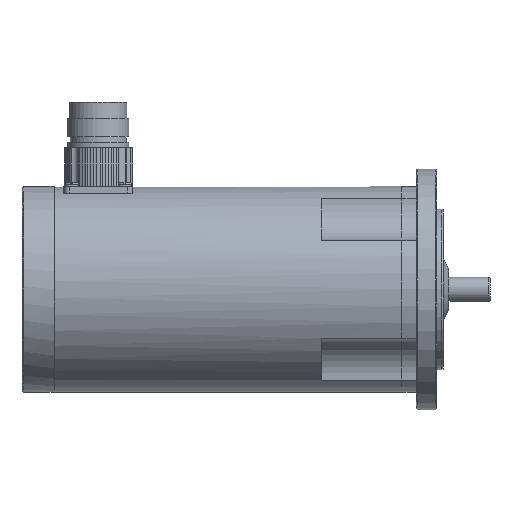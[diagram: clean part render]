
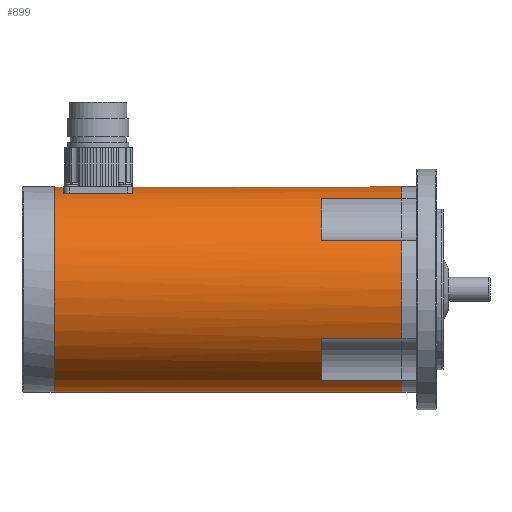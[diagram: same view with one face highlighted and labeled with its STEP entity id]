
A CAD part, left-side view. The second image highlights one B-rep face of the part: STEP entity #899.
In plain terms, the highlighted cylindrical face has radius 38.5 mm (diameter 77 mm), a full revolution.
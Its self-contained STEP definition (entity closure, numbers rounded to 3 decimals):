
#449=CYLINDRICAL_SURFACE('',#5049,38.5);
#597=LINE('',#7499,#747);
#598=LINE('',#7503,#748);
#599=LINE('',#7504,#749);
#600=LINE('',#7506,#750);
#601=LINE('',#7510,#751);
#602=LINE('',#7511,#752);
#603=LINE('',#7515,#753);
#604=LINE('',#7516,#754);
#605=LINE('',#7520,#755);
#606=LINE('',#7521,#756);
#747=VECTOR('',#5823,1.);
#748=VECTOR('',#5826,1.);
#749=VECTOR('',#5827,1.);
#750=VECTOR('',#5828,1.);
#751=VECTOR('',#5831,1.);
#752=VECTOR('',#5832,1.);
#753=VECTOR('',#5835,1.);
#754=VECTOR('',#5836,1.);
#755=VECTOR('',#5839,1.);
#756=VECTOR('',#5840,1.);
#899=ADVANCED_FACE('',(#1577,#1578,#1579),#449,.T.);
#1577=FACE_BOUND('',#1925,.T.);
#1578=FACE_BOUND('',#1926,.T.);
#1579=FACE_BOUND('',#1927,.T.);
#1925=EDGE_LOOP('',(#2512,#2513,#2514,#2515));
#1926=EDGE_LOOP('',(#2516,#2517,#2518,#2519,#2520,#2521,#2522,#2523,#2524,
#2525,#2526,#2527,#2528,#2529,#2530,#2531));
#1927=EDGE_LOOP('',(#2532));
#2512=ORIENTED_EDGE('',*,*,#4075,.F.);
#2513=ORIENTED_EDGE('',*,*,#4076,.F.);
#2514=ORIENTED_EDGE('',*,*,#4077,.F.);
#2515=ORIENTED_EDGE('',*,*,#4078,.F.);
#2516=ORIENTED_EDGE('',*,*,#4079,.F.);
#2517=ORIENTED_EDGE('',*,*,#4073,.T.);
#2518=ORIENTED_EDGE('',*,*,#4080,.F.);
#2519=ORIENTED_EDGE('',*,*,#4081,.F.);
#2520=ORIENTED_EDGE('',*,*,#4082,.F.);
#2521=ORIENTED_EDGE('',*,*,#4071,.T.);
#2522=ORIENTED_EDGE('',*,*,#4083,.F.);
#2523=ORIENTED_EDGE('',*,*,#4084,.F.);
#2524=ORIENTED_EDGE('',*,*,#4085,.F.);
#2525=ORIENTED_EDGE('',*,*,#4069,.T.);
#2526=ORIENTED_EDGE('',*,*,#4086,.F.);
#2527=ORIENTED_EDGE('',*,*,#4087,.F.);
#2528=ORIENTED_EDGE('',*,*,#4088,.F.);
#2529=ORIENTED_EDGE('',*,*,#4067,.T.);
#2530=ORIENTED_EDGE('',*,*,#4089,.F.);
#2531=ORIENTED_EDGE('',*,*,#4090,.F.);
#2532=ORIENTED_EDGE('',*,*,#4065,.T.);
#3622=VERTEX_POINT('',#7475);
#3623=VERTEX_POINT('',#7478);
#3624=VERTEX_POINT('',#7479);
#3625=VERTEX_POINT('',#7481);
#3626=VERTEX_POINT('',#7483);
#3627=VERTEX_POINT('',#7485);
#3628=VERTEX_POINT('',#7487);
#3629=VERTEX_POINT('',#7489);
#3630=VERTEX_POINT('',#7491);
#3632=VERTEX_POINT('',#7497);
#3633=VERTEX_POINT('',#7498);
#3634=VERTEX_POINT('',#7500);
#3635=VERTEX_POINT('',#7502);
#3636=VERTEX_POINT('',#7505);
#3637=VERTEX_POINT('',#7507);
#3638=VERTEX_POINT('',#7509);
#3639=VERTEX_POINT('',#7512);
#3640=VERTEX_POINT('',#7514);
#3641=VERTEX_POINT('',#7517);
#3642=VERTEX_POINT('',#7519);
#3643=VERTEX_POINT('',#7522);
#4065=EDGE_CURVE('',#3622,#3622,#4625,.T.);
#4067=EDGE_CURVE('',#3625,#3624,#4627,.T.);
#4069=EDGE_CURVE('',#3627,#3626,#4629,.T.);
#4071=EDGE_CURVE('',#3629,#3628,#4631,.T.);
#4073=EDGE_CURVE('',#3623,#3630,#4633,.T.);
#4075=EDGE_CURVE('',#3632,#3633,#4635,.T.);
#4076=EDGE_CURVE('',#3634,#3632,#597,.T.);
#4077=EDGE_CURVE('',#3635,#3634,#4636,.T.);
#4078=EDGE_CURVE('',#3633,#3635,#598,.T.);
#4079=EDGE_CURVE('',#3623,#3636,#599,.T.);
#4080=EDGE_CURVE('',#3637,#3630,#600,.T.);
#4081=EDGE_CURVE('',#3638,#3637,#4637,.T.);
#4082=EDGE_CURVE('',#3629,#3638,#601,.T.);
#4083=EDGE_CURVE('',#3639,#3628,#602,.T.);
#4084=EDGE_CURVE('',#3640,#3639,#4638,.T.);
#4085=EDGE_CURVE('',#3627,#3640,#603,.T.);
#4086=EDGE_CURVE('',#3641,#3626,#604,.T.);
#4087=EDGE_CURVE('',#3642,#3641,#4639,.T.);
#4088=EDGE_CURVE('',#3625,#3642,#605,.T.);
#4089=EDGE_CURVE('',#3643,#3624,#606,.T.);
#4090=EDGE_CURVE('',#3636,#3643,#4640,.T.);
#4625=CIRCLE('',#5031,38.5);
#4627=CIRCLE('',#5034,38.5);
#4629=CIRCLE('',#5036,38.5);
#4631=CIRCLE('',#5038,38.5);
#4633=CIRCLE('',#5040,38.5);
#4635=CIRCLE('',#5043,38.5);
#4636=CIRCLE('',#5044,38.5);
#4637=CIRCLE('',#5045,38.5);
#4638=CIRCLE('',#5046,38.5);
#4639=CIRCLE('',#5047,38.5);
#4640=CIRCLE('',#5048,38.5);
#5031=AXIS2_PLACEMENT_3D('',#7474,#5797,#5798);
#5034=AXIS2_PLACEMENT_3D('',#7480,#5803,#5804);
#5036=AXIS2_PLACEMENT_3D('',#7484,#5807,#5808);
#5038=AXIS2_PLACEMENT_3D('',#7488,#5811,#5812);
#5040=AXIS2_PLACEMENT_3D('',#7492,#5815,#5816);
#5043=AXIS2_PLACEMENT_3D('',#7496,#5821,#5822);
#5044=AXIS2_PLACEMENT_3D('',#7501,#5824,#5825);
#5045=AXIS2_PLACEMENT_3D('',#7508,#5829,#5830);
#5046=AXIS2_PLACEMENT_3D('',#7513,#5833,#5834);
#5047=AXIS2_PLACEMENT_3D('',#7518,#5837,#5838);
#5048=AXIS2_PLACEMENT_3D('',#7523,#5841,#5842);
#5049=AXIS2_PLACEMENT_3D('',#7524,#5843,#5844);
#5797=DIRECTION('',(0.,-1.,0.));
#5798=DIRECTION('',(0.,0.,-1.));
#5803=DIRECTION('',(0.,1.,0.));
#5804=DIRECTION('',(0.,0.,1.));
#5807=DIRECTION('',(0.,1.,0.));
#5808=DIRECTION('',(0.,0.,1.));
#5811=DIRECTION('',(0.,1.,0.));
#5812=DIRECTION('',(0.,0.,1.));
#5815=DIRECTION('',(0.,1.,0.));
#5816=DIRECTION('',(0.,0.,1.));
#5821=DIRECTION('',(0.,1.,0.));
#5822=DIRECTION('',(0.,0.,-1.));
#5823=DIRECTION('',(0.,-1.,0.));
#5824=DIRECTION('',(0.,-1.,0.));
#5825=DIRECTION('',(0.,0.,1.));
#5826=DIRECTION('',(0.,1.,0.));
#5827=DIRECTION('',(0.,1.,0.));
#5828=DIRECTION('',(0.,-1.,0.));
#5829=DIRECTION('',(0.,-1.,0.));
#5830=DIRECTION('',(0.,0.,1.));
#5831=DIRECTION('',(0.,1.,0.));
#5832=DIRECTION('',(0.,-1.,0.));
#5833=DIRECTION('',(0.,-1.,0.));
#5834=DIRECTION('',(0.,0.,1.));
#5835=DIRECTION('',(0.,1.,0.));
#5836=DIRECTION('',(0.,-1.,0.));
#5837=DIRECTION('',(0.,-1.,0.));
#5838=DIRECTION('',(0.,0.,1.));
#5839=DIRECTION('',(0.,1.,0.));
#5840=DIRECTION('',(0.,-1.,0.));
#5841=DIRECTION('',(0.,-1.,0.));
#5842=DIRECTION('',(0.,0.,1.));
#5843=DIRECTION('',(0.,1.,0.));
#5844=DIRECTION('',(0.,0.,1.));
#7474=CARTESIAN_POINT('',(0.,130.,0.));
#7475=CARTESIAN_POINT('',(0.,130.,-38.5));
#7478=CARTESIAN_POINT('',(-18.249,0.,33.9));
#7479=CARTESIAN_POINT('',(-33.9,0.,18.249));
#7480=CARTESIAN_POINT('',(0.,0.,0.));
#7481=CARTESIAN_POINT('',(-33.9,0.,-18.249));
#7483=CARTESIAN_POINT('',(-18.249,0.,-33.9));
#7484=CARTESIAN_POINT('',(0.,0.,0.));
#7485=CARTESIAN_POINT('',(18.249,0.,-33.9));
#7487=CARTESIAN_POINT('',(33.9,0.,-18.249));
#7488=CARTESIAN_POINT('',(0.,0.,0.));
#7489=CARTESIAN_POINT('',(33.9,0.,18.249));
#7491=CARTESIAN_POINT('',(18.249,0.,33.9));
#7492=CARTESIAN_POINT('',(0.,0.,0.));
#7496=CARTESIAN_POINT('',(0.,100.5,0.));
#7497=CARTESIAN_POINT('',(-13.647,100.5,36.));
#7498=CARTESIAN_POINT('',(13.647,100.5,36.));
#7499=CARTESIAN_POINT('',(-13.647,0.,36.));
#7500=CARTESIAN_POINT('',(-13.647,126.5,36.));
#7501=CARTESIAN_POINT('',(0.,126.5,0.));
#7502=CARTESIAN_POINT('',(13.647,126.5,36.));
#7503=CARTESIAN_POINT('',(13.647,0.,36.));
#7504=CARTESIAN_POINT('',(-18.249,15.,33.9));
#7505=CARTESIAN_POINT('',(-18.249,30.,33.9));
#7506=CARTESIAN_POINT('',(18.249,15.,33.9));
#7507=CARTESIAN_POINT('',(18.249,30.,33.9));
#7508=CARTESIAN_POINT('',(0.,30.,0.));
#7509=CARTESIAN_POINT('',(33.9,30.,18.249));
#7510=CARTESIAN_POINT('',(33.9,15.,18.249));
#7511=CARTESIAN_POINT('',(33.9,15.,-18.249));
#7512=CARTESIAN_POINT('',(33.9,30.,-18.249));
#7513=CARTESIAN_POINT('',(0.,30.,0.));
#7514=CARTESIAN_POINT('',(18.249,30.,-33.9));
#7515=CARTESIAN_POINT('',(18.249,15.,-33.9));
#7516=CARTESIAN_POINT('',(-18.249,15.,-33.9));
#7517=CARTESIAN_POINT('',(-18.249,30.,-33.9));
#7518=CARTESIAN_POINT('',(0.,30.,0.));
#7519=CARTESIAN_POINT('',(-33.9,30.,-18.249));
#7520=CARTESIAN_POINT('',(-33.9,15.,-18.249));
#7521=CARTESIAN_POINT('',(-33.9,15.,18.249));
#7522=CARTESIAN_POINT('',(-33.9,30.,18.249));
#7523=CARTESIAN_POINT('',(0.,30.,0.));
#7524=CARTESIAN_POINT('',(0.,0.,0.));
